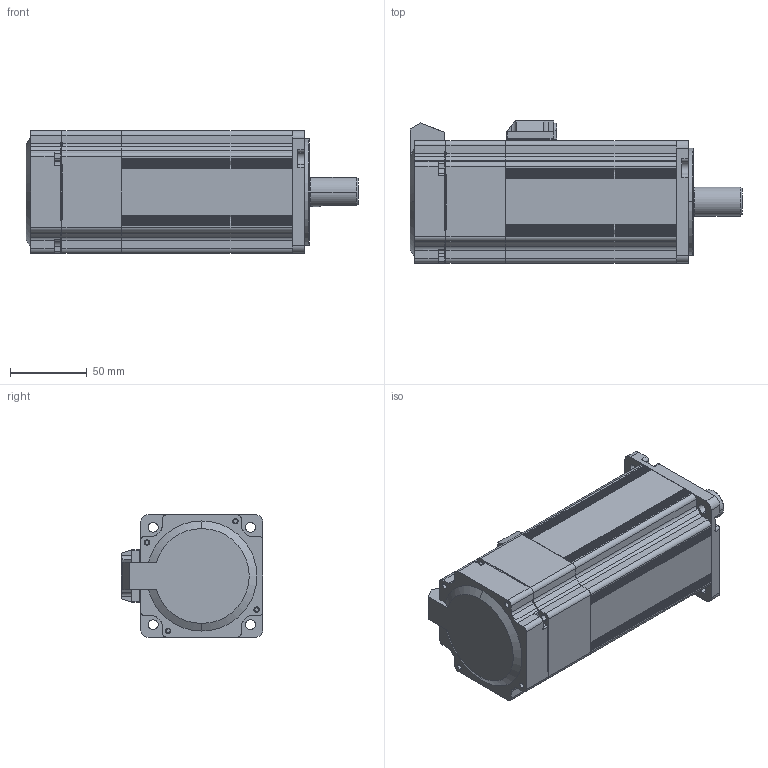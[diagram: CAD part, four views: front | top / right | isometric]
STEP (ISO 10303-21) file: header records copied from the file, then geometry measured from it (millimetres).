
FILE_DESCRIPTION (( 'STEP AP203' ), '1' );
FILE_NAME ('MS6H-80CS(CM)20BZ2-20P7.STEP', '2020-09-09T06:58:20', ( '' ), ( '' ), 'SwSTEP 2.0', 'SolidWorks 2016', '' );
FILE_SCHEMA (( 'CONFIG_CONTROL_DESIGN' ));
Length unit declared in the file: millimetre
Products named in the file (1): MS6H-80CS(CM)20BZ2-20P7
Bounding box: 217 x 92.8 x 80 mm (x, y, z)
Surface area: 90175.7 mm2 (no closed solid volume)
Topology: 0 solids, 248 shells, 1432 faces, 4527 edges, 3299 vertices
Faces by surface type: cylinder 853, plane 479, cone 32, bspline 25, sphere 24, torus 19
Entity records: 50705 total; most frequent: CARTESIAN_POINT 10510, DIRECTION 9165, ORIENTED_EDGE 6690, EDGE_CURVE 4503, AXIS2_PLACEMENT_3D 3340, VERTEX_POINT 3299, LINE 2485, VECTOR 2485
